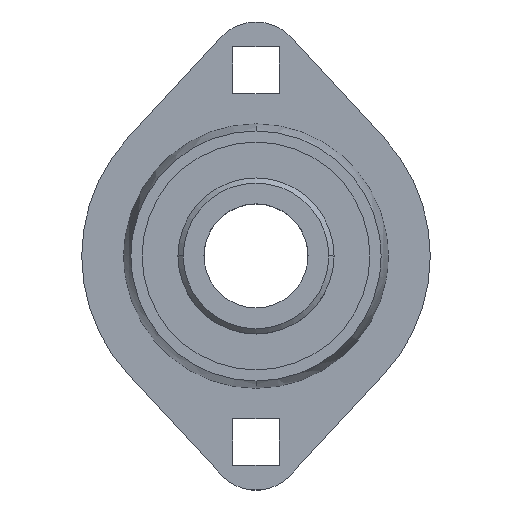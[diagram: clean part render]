
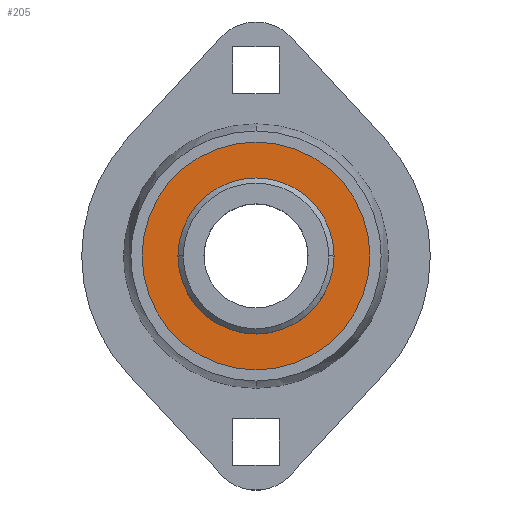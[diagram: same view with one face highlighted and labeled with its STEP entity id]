
A CAD part, top view. The second image highlights one B-rep face of the part: STEP entity #205.
In plain terms, the highlighted planar face has unit normal (0, 0, 1).
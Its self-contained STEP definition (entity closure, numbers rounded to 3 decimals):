
#105 = VERTEX_POINT ( 'NONE', #602 ) ;
#113 = EDGE_CURVE ( 'NONE', #2062, #105, #590, .T. ) ;
#158 = ORIENTED_EDGE ( 'NONE', *, *, #1934, .T. ) ;
#160 = ORIENTED_EDGE ( 'NONE', *, *, #1945, .T. ) ;
#187 = EDGE_LOOP ( 'NONE', ( #158, #160 ) ) ;
#194 = EDGE_CURVE ( 'NONE', #105, #2062, #748, .T. ) ;
#205 = ADVANCED_FACE ( 'NONE', ( #776, #835 ), #805, .T. ) ;
#206 = EDGE_LOOP ( 'NONE', ( #207, #209 ) ) ;
#207 = ORIENTED_EDGE ( 'NONE', *, *, #113, .F. ) ;
#209 = ORIENTED_EDGE ( 'NONE', *, *, #194, .F. ) ;
#589 = CARTESIAN_POINT ( 'NONE',  ( 0., 0., 7. ) ) ;
#590 = CIRCLE ( 'NONE', #642, 22.433 ) ;
#602 = CARTESIAN_POINT ( 'NONE',  ( 0., -22.433, 7. ) ) ;
#636 = DIRECTION ( 'NONE',  ( -1., 0., 0. ) ) ;
#637 = DIRECTION ( 'NONE',  ( 0., 0., -1. ) ) ;
#642 = AXIS2_PLACEMENT_3D ( 'NONE', #589, #637, #636 ) ;
#745 = CARTESIAN_POINT ( 'NONE',  ( 0., 0., 7. ) ) ;
#747 = AXIS2_PLACEMENT_3D ( 'NONE', #745, #803, #802 ) ;
#748 = CIRCLE ( 'NONE', #747, 22.433 ) ;
#776 = FACE_BOUND ( 'NONE', #187, .T. ) ;
#786 = DIRECTION ( 'NONE',  ( 0., 0., 1. ) ) ;
#790 = DIRECTION ( 'NONE',  ( 1., 0., 0. ) ) ;
#802 = DIRECTION ( 'NONE',  ( -1., 0., 0. ) ) ;
#803 = DIRECTION ( 'NONE',  ( 0., 0., -1. ) ) ;
#805 = PLANE ( 'NONE',  #832 ) ;
#832 = AXIS2_PLACEMENT_3D ( 'NONE', #834, #786, #790 ) ;
#834 = CARTESIAN_POINT ( 'NONE',  ( 0., 15., 7. ) ) ;
#835 = FACE_OUTER_BOUND ( 'NONE', #206, .T. ) ;
#1428 = CARTESIAN_POINT ( 'NONE',  ( -15., 0., 7. ) ) ;
#1449 = CARTESIAN_POINT ( 'NONE',  ( 15., 0., 7. ) ) ;
#1456 = DIRECTION ( 'NONE',  ( -1., 0., 0. ) ) ;
#1457 = DIRECTION ( 'NONE',  ( 0., 0., -1. ) ) ;
#1458 = AXIS2_PLACEMENT_3D ( 'NONE', #1469, #1457, #1456 ) ;
#1467 = CIRCLE ( 'NONE', #1458, 15. ) ;
#1469 = CARTESIAN_POINT ( 'NONE',  ( 0., 0., 7. ) ) ;
#1475 = DIRECTION ( 'NONE',  ( -1., 0., 0. ) ) ;
#1476 = DIRECTION ( 'NONE',  ( 0., 0., -1. ) ) ;
#1477 = CARTESIAN_POINT ( 'NONE',  ( 0., 0., 7. ) ) ;
#1478 = AXIS2_PLACEMENT_3D ( 'NONE', #1477, #1476, #1475 ) ;
#1479 = CIRCLE ( 'NONE', #1478, 15. ) ;
#1653 = CARTESIAN_POINT ( 'NONE',  ( 0., 22.433, 7. ) ) ;
#1919 = VERTEX_POINT ( 'NONE', #1449 ) ;
#1934 = EDGE_CURVE ( 'NONE', #1938, #1919, #1479, .T. ) ;
#1938 = VERTEX_POINT ( 'NONE', #1428 ) ;
#1945 = EDGE_CURVE ( 'NONE', #1919, #1938, #1467, .T. ) ;
#2062 = VERTEX_POINT ( 'NONE', #1653 ) ;
